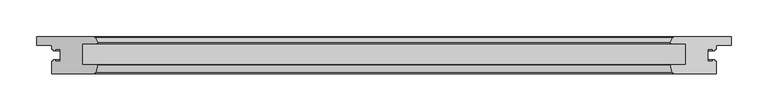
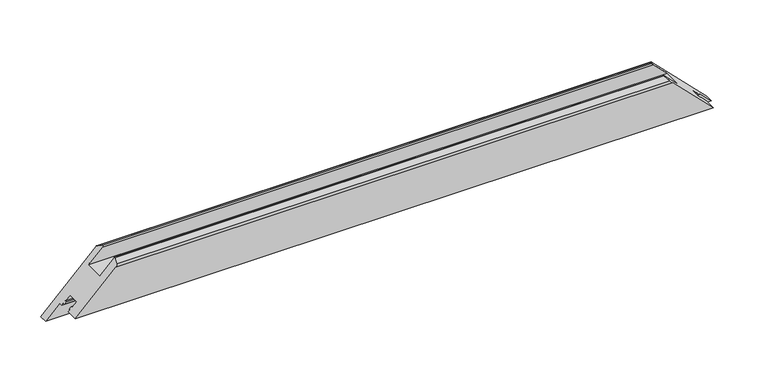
"""IFC4 building model written with IfcOpenShell, lengths in millimetres: proxy geometry, Weiku - Montante - Folha 02.2.01.017 : Weiku - Montante - Folha 02.2.01.017."""

from ifc_helpers import new_model, si_unit, frame, origin, place, context, project, spatial, ellipse_curve, source, transform, mapped, element, save
from ifc_brep_helpers import plane_surface, cylinder_surface, advanced_brep


def generic_models_bae6cf7f(model_context):
    return source(origin(), model_context, "Body", "AdvancedBrep", [
        advanced_brep(
        [(-450.75, -50.0, 20.0), (450.75, -50.0, 20.0), (393.7497332, -50.0, 77.0002668), (-393.7497332, -50.0, 77.0002668), (-470.75, 0.0, 0.0), (-392.7372264, 0.0, 78.0127736), (392.7372264, 0.0, 78.0127736), (470.75, 0.0, 0.0), (-390.8519557, -47.7764571, 79.8980443), (-388.2670371, -38.1294095, 82.4829629), (-388.75, -37.5, 82.0), (-409.25, -37.5, 61.5), (-409.25, -9.5, 61.5), (-389.4634285, -9.5, 81.2865715), (-388.3012796, -7.617411, 82.4487204), (-391.8432657, -0.5518546, 78.9067343), (-470.75, -11.5, 0.0), (-450.75, -11.5, 20.0), (-450.75, -16.9, 20.0), (-448.55, -16.9, 22.2), (-448.55, -18.9, 22.2), (-445.75, -18.9, 25.0), (-445.75, -16.9, 25.0), (-439.25, -16.9, 31.5), (-439.25, -33.1, 31.5), (-445.75, -33.1, 25.0), (-445.75, -31.1, 25.0), (-448.55, -31.1, 22.2), (-448.55, -33.1, 22.2), (-450.75, -33.1, 20.0), (450.75, -33.1, 20.0), (448.55, -33.1, 22.2), (448.55, -31.1, 22.2), (445.75, -31.1, 25.0), (445.75, -33.1, 25.0), (439.25, -33.1, 31.5), (439.25, -16.9, 31.5), (445.75, -16.9, 25.0), (445.75, -18.9, 25.0), (448.55, -18.9, 22.2), (448.55, -16.9, 22.2), (450.75, -16.9, 20.0), (450.75, -11.5, 20.0), (470.75, -11.5, 0.0), (391.8432657, -0.5518546, 78.9067343), (388.3012796, -7.617411, 82.4487204), (389.4634285, -9.5, 81.2865715), (409.25, -9.5, 61.5), (409.25, -37.5, 61.5), (388.75, -37.5, 82.0), (388.2670371, -38.1294095, 82.4829629), (390.8519557, -47.7764571, 79.8980443)],
        [
            (0, 1),
            (1, 2),
            (2, 3),
            (3, 0),
            (4, 5),
            (5, 6),
            (6, 7),
            (7, 4),
            (3, 8, ellipse_curve(frame((-393.7497332, -47.0, 77.0002668), z_axis=(-0.7071067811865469, 0.0, 0.7071067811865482), x_axis=(-0.707106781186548, 0.0, -0.7071067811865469)), 4.2426407, 3.0)),
            (8, 9),
            (9, 10, ellipse_curve(frame((-388.75, -38.0, 82.0), z_axis=(-0.7071067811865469, 0.0, 0.7071067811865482), x_axis=(-0.707106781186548, 0.0, -0.7071067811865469)), 0.7071068, 0.5)),
            (10, 11),
            (11, 12),
            (12, 13),
            (13, 14, ellipse_curve(frame((-389.4634285, -8.2, 81.2865715), z_axis=(-0.7071067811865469, 0.0, 0.7071067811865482), x_axis=(-0.707106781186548, 0.0, -0.7071067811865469)), 1.8384776, 1.3)),
            (14, 15),
            (15, 5, ellipse_curve(frame((-392.7372264, -1.0, 78.0127736), z_axis=(-0.7071067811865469, 0.0, 0.7071067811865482), x_axis=(-0.707106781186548, 0.0, -0.7071067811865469)), 1.4142136, 1.0)),
            (4, 16),
            (16, 17),
            (17, 18),
            (18, 19),
            (19, 20),
            (20, 21),
            (21, 22),
            (22, 23),
            (23, 24),
            (24, 25),
            (25, 26),
            (26, 27),
            (27, 28),
            (28, 29),
            (29, 0),
            (1, 30),
            (30, 31),
            (31, 32),
            (32, 33),
            (33, 34),
            (34, 35),
            (35, 36),
            (36, 37),
            (37, 38),
            (38, 39),
            (39, 40),
            (40, 41),
            (41, 42),
            (42, 43),
            (43, 7),
            (6, 44, ellipse_curve(frame((392.7372264, -1.0, 78.0127736), z_axis=(0.7071067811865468, 0.0, 0.7071067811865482), x_axis=(-0.7071067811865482, 0.0, 0.7071067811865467)), 1.4142136, 1.0)),
            (44, 45),
            (45, 46, ellipse_curve(frame((389.4634285, -8.2, 81.2865715), z_axis=(0.7071067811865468, 0.0, 0.7071067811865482), x_axis=(-0.7071067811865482, 0.0, 0.7071067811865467)), 1.8384776, 1.3)),
            (46, 47),
            (47, 48),
            (48, 49),
            (49, 50, ellipse_curve(frame((388.75, -38.0, 82.0), z_axis=(0.7071067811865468, 0.0, 0.7071067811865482), x_axis=(-0.7071067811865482, 0.0, 0.7071067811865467)), 0.7071068, 0.5)),
            (50, 51),
            (51, 2, ellipse_curve(frame((393.7497332, -47.0, 77.0002668), z_axis=(0.7071067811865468, 0.0, 0.7071067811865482), x_axis=(-0.7071067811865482, 0.0, 0.7071067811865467)), 4.2426407, 3.0)),
            (15, 44),
            (14, 45),
            (13, 46),
            (12, 47),
            (11, 48),
            (10, 49),
            (9, 50),
            (8, 51),
            (29, 30),
            (28, 31),
            (27, 32),
            (26, 33),
            (25, 34),
            (24, 35),
            (23, 36),
            (22, 37),
            (21, 38),
            (20, 39),
            (19, 40),
            (18, 41),
            (17, 42),
            (16, 43),
        ],
        [
            plane_surface(frame((-470.75, -50.0, 77.0002668), z_axis=(0.0, -1.0, 0.0), x_axis=(1.0, 0.0, 0.0))),
            plane_surface(frame((-470.75, 0.0, 0.0), z_axis=(0.0, 1.0, 0.0), x_axis=(1.0, 0.0, 0.0))),
            plane_surface(frame((-499.0342712, 0.0, -28.2842712), z_axis=(-0.7071067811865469, 0.0, 0.7071067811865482), x_axis=(0.0, -1.0, 0.0))),
            plane_surface(frame((380.75, 0.0, 90.0), z_axis=(0.7071067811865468, 0.0, 0.7071067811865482), x_axis=(0.0, -1.0, 0.0))),
            cylinder_surface(frame((-470.75, -1.0, 78.0127736), z_axis=(-1.0, 0.0, 0.0), x_axis=(0.0, -1.0, 0.0)), 1.0),
            plane_surface(frame((-470.75, -0.5518546, 78.9067343), z_axis=(0.0, 0.4481453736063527, 0.8939606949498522), x_axis=(1.0, 0.0, 0.0))),
            cylinder_surface(frame((-470.75, -8.2, 81.2865715), z_axis=(-1.0, 0.0, 0.0), x_axis=(0.0, -1.0, 0.0)), 1.3),
            plane_surface(frame((-470.75, -9.5, 81.2865715), z_axis=(0.0, -1.0, 0.0), x_axis=(1.0, 0.0, 0.0))),
            plane_surface(frame((-470.75, -9.5, 61.5), z_axis=(0.0, 0.0, 1.0), x_axis=(1.0, 0.0, 0.0))),
            plane_surface(frame((-470.75, -37.5, 61.5), z_axis=(0.0, 1.0, 0.0), x_axis=(1.0, 0.0, 0.0))),
            cylinder_surface(frame((-470.75, -38.0, 82.0), z_axis=(-1.0, 0.0, 0.0), x_axis=(0.0, -1.0, 0.0)), 0.5),
            plane_surface(frame((-470.75, -38.1294095, 82.4829629), z_axis=(0.0, -0.2588190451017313, 0.9659258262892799), x_axis=(1.0, 0.0, 0.0))),
            cylinder_surface(frame((-470.75, -47.0, 77.0002668), z_axis=(-1.0, 0.0, 0.0), x_axis=(0.0, -1.0, 0.0)), 3.0),
            plane_surface(frame((-470.75, -50.0, 20.0), z_axis=(0.0, 0.0, -1.0), x_axis=(1.0, 0.0, 0.0))),
            plane_surface(frame((-470.75, -33.1, 20.0), z_axis=(0.0, 1.0, 0.0), x_axis=(1.0, 0.0, 0.0))),
            plane_surface(frame((-470.75, -33.1, 22.2), z_axis=(0.0, 0.0, -1.0), x_axis=(1.0, 0.0, 0.0))),
            plane_surface(frame((-470.75, -31.1, 22.2), z_axis=(0.0, 1.0, 0.0), x_axis=(1.0, 0.0, 0.0))),
            plane_surface(frame((-470.75, -31.1, 25.0), z_axis=(0.0, 0.0, 1.0), x_axis=(1.0, 0.0, 0.0))),
            plane_surface(frame((-470.75, -33.1, 25.0), z_axis=(0.0, 1.0, 0.0), x_axis=(1.0, 0.0, 0.0))),
            plane_surface(frame((-470.75, -33.1, 31.5), z_axis=(0.0, 0.0, -1.0), x_axis=(1.0, 0.0, 0.0))),
            plane_surface(frame((-470.75, -16.9, 31.5), z_axis=(0.0, -1.0, 0.0), x_axis=(1.0, 0.0, 0.0))),
            plane_surface(frame((-470.75, -16.9, 25.0), z_axis=(0.0, 0.0, 1.0), x_axis=(1.0, 0.0, 0.0))),
            plane_surface(frame((-470.75, -18.9, 25.0), z_axis=(0.0, -1.0, 0.0), x_axis=(1.0, 0.0, 0.0))),
            plane_surface(frame((-470.75, -18.9, 22.2), z_axis=(0.0, 0.0, -1.0), x_axis=(1.0, 0.0, 0.0))),
            plane_surface(frame((-470.75, -16.9, 22.2), z_axis=(0.0, -1.0, 0.0), x_axis=(1.0, 0.0, 0.0))),
            plane_surface(frame((-470.75, -16.9, 20.0), z_axis=(0.0, 0.0, -1.0), x_axis=(1.0, 0.0, 0.0))),
            plane_surface(frame((-470.75, -11.5, 20.0), z_axis=(0.0, -1.0, 0.0), x_axis=(1.0, 0.0, 0.0))),
            plane_surface(frame((-470.75, -11.5, 0.0), z_axis=(0.0, 0.0, -1.0), x_axis=(1.0, 0.0, 0.0))),
        ],
        [
            (0, [[1, 2, 3, 4]]),
            (1, [[5, 6, 7, 8]]),
            (2, [[9, 10, 11, 12, 13, 14, 15, 16, 17, -5, 18, 19, 20, 21, 22, 23, 24, 25, 26, 27, 28, 29, 30, 31, 32, -4]]),
            (3, [[33, 34, 35, 36, 37, 38, 39, 40, 41, 42, 43, 44, 45, 46, 47, -7, 48, 49, 50, 51, 52, 53, 54, 55, 56, -2]]),
            (4, [[57, -48, -6, -17]]),
            (5, [[58, -49, -57, -16]]),
            (6, [[59, -50, -58, -15]]),
            (7, [[60, -51, -59, -14]]),
            (8, [[61, -52, -60, -13]]),
            (9, [[62, -53, -61, -12]]),
            (10, [[63, -54, -62, -11]]),
            (11, [[64, -55, -63, -10]]),
            (12, [[-3, -56, -64, -9]]),
            (13, [[65, -33, -1, -32]]),
            (14, [[66, -34, -65, -31]]),
            (15, [[67, -35, -66, -30]]),
            (16, [[68, -36, -67, -29]]),
            (17, [[69, -37, -68, -28]]),
            (18, [[70, -38, -69, -27]]),
            (19, [[71, -39, -70, -26]]),
            (20, [[72, -40, -71, -25]]),
            (21, [[73, -41, -72, -24]]),
            (22, [[74, -42, -73, -23]]),
            (23, [[75, -43, -74, -22]]),
            (24, [[76, -44, -75, -21]]),
            (25, [[77, -45, -76, -20]]),
            (26, [[-46, -77, -19, 78]]),
            (27, [[-47, -78, -18, -8]]),
        ],
    ),
    ])


if __name__ == "__main__":
    model = new_model("IFC4")
    model_context = context("Model", 3, world=origin())
    ifc_project = project(units=[si_unit("LENGTHUNIT", "METRE", prefix="MILLI")], contexts=[model_context])
    site = spatial("IfcSite", under=ifc_project)
    building = spatial("IfcBuilding", under=site)
    placement = place(None, origin())
    generic_models_shape = generic_models_bae6cf7f(model_context)
    element("IfcBuildingElementProxy", 1, Name="Weiku - Montante - Folha 02.2.01.017 : Weiku - Montante - Folha 02.2.01.017", ObjectType="Weiku - Montante - Folha 02.2.01.017 : Weiku - Montante - Folha 02.2.01.017", at=placement, inside=building, context=model_context, shape_type="MappedRepresentation", body=[
        mapped(generic_models_shape, transform((0.0, 0.0, 0.0), x_axis=(1.0, 0.0, 0.0), y_axis=(0.0, 1.0, 0.0), z_axis=(0.0, 0.0, 1.0))),
    ])
    save(model, "model.ifc")
